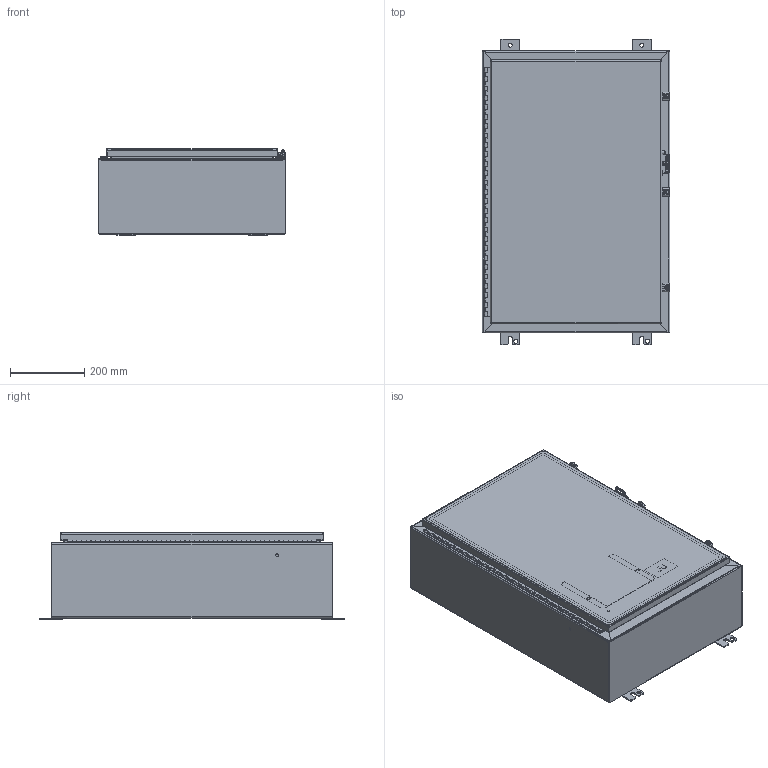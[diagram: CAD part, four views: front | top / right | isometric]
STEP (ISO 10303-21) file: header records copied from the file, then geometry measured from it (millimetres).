
FILE_DESCRIPTION((''),'2;1');
FILE_NAME('MODEL-303_ASM','2026-04-02T15:39:53',('ChadS'),('SAGINAW CONTROL & ENGINEERING'),'CREO PARAMETRIC BY PTC INC, 2021284','CREO PARAMETRIC BY PTC INC, 2021284','');
FILE_SCHEMA(('AUTOMOTIVE_DESIGN { 1 0 10303 214 1 1 1 1 }'));
Length unit declared in the file: inch
Products named in the file (30): MODEL-303-BDY; MODEL-303-TP; MODEL-303-BTM; MODEL-303-DR; 100837; 100882; 111541; 125597; 118920_DR; 118920_PIN; 118920_BX; 118920_STUD; 118920_ASM; 100897; MODEL-303-DOOR-GASKET; 128600; 102483; MODEL-303-DOOR-ASSY_ASM; 102211; 101653; 121452; 120131_BASE; 120131_CLAMP; 120131_SCREW; 120131_CLOSED_ASM; 120134; SUBPANEL; 100904; SUBPANEL-SUBASSEMBLY_ASM; MODEL-303_ASM
Assembly tree (56 placements, depth 4):
  MODEL-303_ASM
    MODEL-303-BDY
    MODEL-303-TP
    MODEL-303-BTM
    MODEL-303-DOOR-ASSY_ASM
      MODEL-303-DR
      100837  x3
      100882  x2
      111541
      125597
      118920_ASM
        118920_DR
        118920_PIN
        118920_BX
        118920_STUD  x5
      100897  x5
      MODEL-303-DOOR-GASKET
      128600
      102483
    102211  x4
    100837
    101653  x4
    121452
    120131_CLOSED_ASM  x3
      120131_BASE
      120131_CLAMP
      120131_SCREW
    100882  x4
    120134
    SUBPANEL-SUBASSEMBLY_ASM
      SUBPANEL
      100904  x4
Bounding box: 508 x 825.5 x 233.88 mm (x, y, z)
Volume: 4106414.1 mm3; surface area: 3781915.2 mm2
Topology: 55 solids, 55 shells, 4154 faces, 10848 edges, 6849 vertices
Faces by surface type: plane 1700, bspline 1095, cylinder 916, torus 232, sphere 111, cone 100
Entity records: 99007 total; most frequent: CARTESIAN_POINT 30853, ORIENTED_EDGE 10134, DIRECTION 9221, PRESENTATION_STYLE_ASSIGNMENT 5198, STYLED_ITEM 5196, CURVE_STYLE 5067, EDGE_CURVE 5067, VERTEX_POINT 3200
